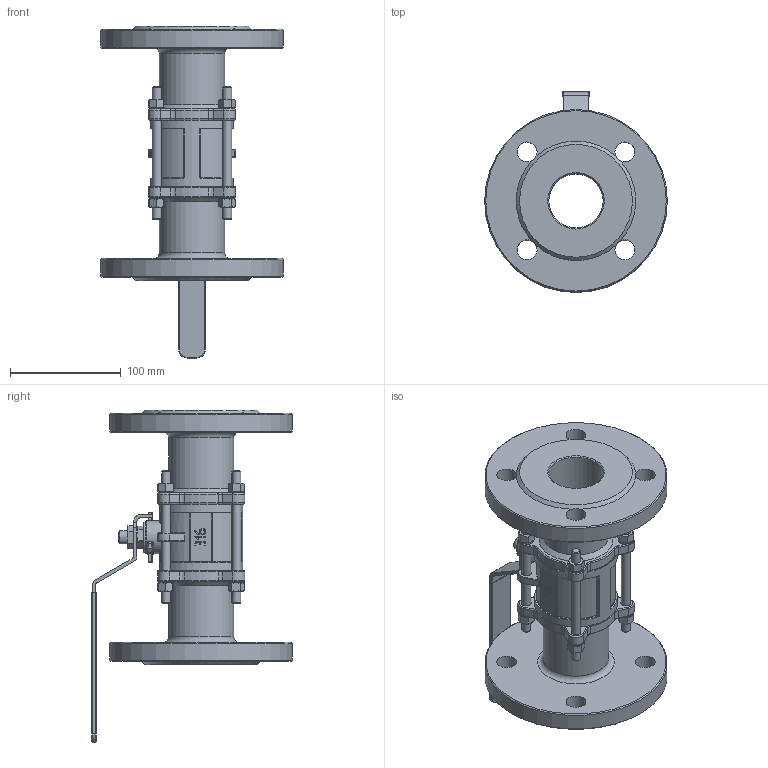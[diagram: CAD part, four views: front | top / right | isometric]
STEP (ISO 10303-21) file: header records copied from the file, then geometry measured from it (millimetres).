
FILE_DESCRIPTION(('STEP AP214'), '1');
FILE_NAME('BV3232P(3pc)-FP-F-H - Êðàí øàðîâîé DN.ru Äó50 Ðó40', '', ('UNSPECIFIED'), ('UNSPECIFIED'), 'C3D Converter', 'C3D Toolkit', '');
FILE_SCHEMA(('AUTOMOTIVE_DESIGN { 1 0 10303 214 3 1 1}'));
Length unit declared in the file: millimetre
Products named in the file (1): BV3232P(3pc)-FP-F-H
Bounding box: 165 x 181.6 x 300 mm (x, y, z)
Volume: 1036251.6 mm3; surface area: 212358.8 mm2
Topology: 1 solids, 1 shells, 1521 faces, 3841 edges, 2410 vertices
Faces by surface type: plane 519, extrusion 445, cylinder 235, cone 139, torus 117, bspline 34, sphere 32
Full cylindrical faces by diameter (mm): 8 x12, 8.4 x8, 9 x10, 12 x1, 14 x8, 18 x8, 26.976 x1, 30 x1, 49 x1, 59 x2, 75 x1, 165 x2
Entity records: 58716 total; most frequent: CARTESIAN_POINT 20404, ORIENTED_EDGE 7522, DIRECTION 5888, EDGE_CURVE 3761, VERTEX_POINT 2408, VECTOR 2094, AXIS2_PLACEMENT_3D 1897, EDGE_LOOP 1717
